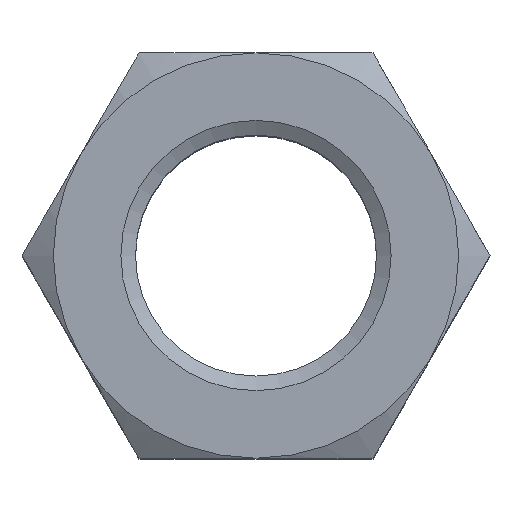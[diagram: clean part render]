
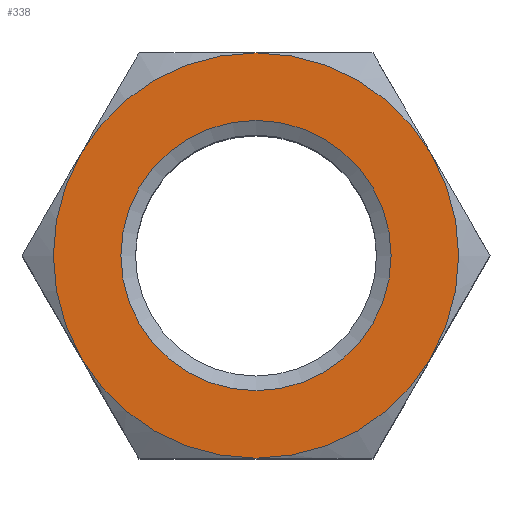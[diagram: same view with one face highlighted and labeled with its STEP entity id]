
A CAD part, top view. The second image highlights one B-rep face of the part: STEP entity #338.
In plain terms, the highlighted planar face has unit normal (0, 0, 1) as drawn and (1, 0, 0) by its records, which use the part's own axes.
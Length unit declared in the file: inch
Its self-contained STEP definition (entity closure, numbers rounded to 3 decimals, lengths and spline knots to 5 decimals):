
#48=FACE_BOUND('',#87,.T.);
#50=PLANE('',#401);
#62=FACE_OUTER_BOUND('',#86,.T.);
#86=EDGE_LOOP('',(#241,#242,#243,#244,#245,#246));
#87=EDGE_LOOP('',(#247));
#134=CIRCLE('',#400,0.25006);
#135=CIRCLE('',#402,0.375);
#136=CIRCLE('',#403,0.375);
#137=CIRCLE('',#404,0.375);
#138=CIRCLE('',#405,0.375);
#139=CIRCLE('',#406,0.375);
#140=CIRCLE('',#407,0.375);
#151=VERTEX_POINT('',#553);
#152=VERTEX_POINT('',#557);
#153=VERTEX_POINT('',#558);
#154=VERTEX_POINT('',#560);
#155=VERTEX_POINT('',#562);
#156=VERTEX_POINT('',#564);
#157=VERTEX_POINT('',#566);
#182=EDGE_CURVE('',#151,#151,#134,.T.);
#184=EDGE_CURVE('',#152,#153,#135,.T.);
#185=EDGE_CURVE('',#153,#154,#136,.T.);
#186=EDGE_CURVE('',#154,#155,#137,.T.);
#187=EDGE_CURVE('',#155,#156,#138,.T.);
#188=EDGE_CURVE('',#156,#157,#139,.T.);
#189=EDGE_CURVE('',#157,#152,#140,.T.);
#241=ORIENTED_EDGE('',*,*,#184,.T.);
#242=ORIENTED_EDGE('',*,*,#185,.T.);
#243=ORIENTED_EDGE('',*,*,#186,.T.);
#244=ORIENTED_EDGE('',*,*,#187,.T.);
#245=ORIENTED_EDGE('',*,*,#188,.T.);
#246=ORIENTED_EDGE('',*,*,#189,.T.);
#247=ORIENTED_EDGE('',*,*,#182,.F.);
#338=ADVANCED_FACE('',(#62,#48),#50,.T.);
#400=AXIS2_PLACEMENT_3D('',#554,#462,#463);
#401=AXIS2_PLACEMENT_3D('',#556,#465,#466);
#402=AXIS2_PLACEMENT_3D('',#559,#467,#468);
#403=AXIS2_PLACEMENT_3D('',#561,#469,#470);
#404=AXIS2_PLACEMENT_3D('',#563,#471,#472);
#405=AXIS2_PLACEMENT_3D('',#565,#473,#474);
#406=AXIS2_PLACEMENT_3D('',#567,#475,#476);
#407=AXIS2_PLACEMENT_3D('',#568,#477,#478);
#462=DIRECTION('center_axis',(1.,0.,0.));
#463=DIRECTION('ref_axis',(0.,0.,1.));
#465=DIRECTION('center_axis',(1.,0.,0.));
#466=DIRECTION('ref_axis',(0.,0.,-1.));
#467=DIRECTION('center_axis',(1.,0.,0.));
#468=DIRECTION('ref_axis',(0.,1.,0.));
#469=DIRECTION('center_axis',(1.,0.,0.));
#470=DIRECTION('ref_axis',(0.,1.,0.));
#471=DIRECTION('center_axis',(1.,0.,0.));
#472=DIRECTION('ref_axis',(0.,1.,0.));
#473=DIRECTION('center_axis',(1.,0.,0.));
#474=DIRECTION('ref_axis',(0.,1.,0.));
#475=DIRECTION('center_axis',(1.,0.,0.));
#476=DIRECTION('ref_axis',(0.,1.,0.));
#477=DIRECTION('center_axis',(1.,0.,0.));
#478=DIRECTION('ref_axis',(0.,1.,0.));
#553=CARTESIAN_POINT('',(0.448,0.,-0.25006));
#554=CARTESIAN_POINT('Origin',(0.448,0.,0.));
#556=CARTESIAN_POINT('Origin',(0.448,0.,0.));
#557=CARTESIAN_POINT('',(0.448,-0.32476,-0.1875));
#558=CARTESIAN_POINT('',(0.448,0.,-0.375));
#559=CARTESIAN_POINT('Origin',(0.448,0.,0.));
#560=CARTESIAN_POINT('',(0.448,0.32476,-0.1875));
#561=CARTESIAN_POINT('Origin',(0.448,0.,0.));
#562=CARTESIAN_POINT('',(0.448,0.32476,0.1875));
#563=CARTESIAN_POINT('Origin',(0.448,0.,0.));
#564=CARTESIAN_POINT('',(0.448,0.,0.375));
#565=CARTESIAN_POINT('Origin',(0.448,0.,0.));
#566=CARTESIAN_POINT('',(0.448,-0.32476,0.1875));
#567=CARTESIAN_POINT('Origin',(0.448,0.,0.));
#568=CARTESIAN_POINT('Origin',(0.448,0.,0.));
